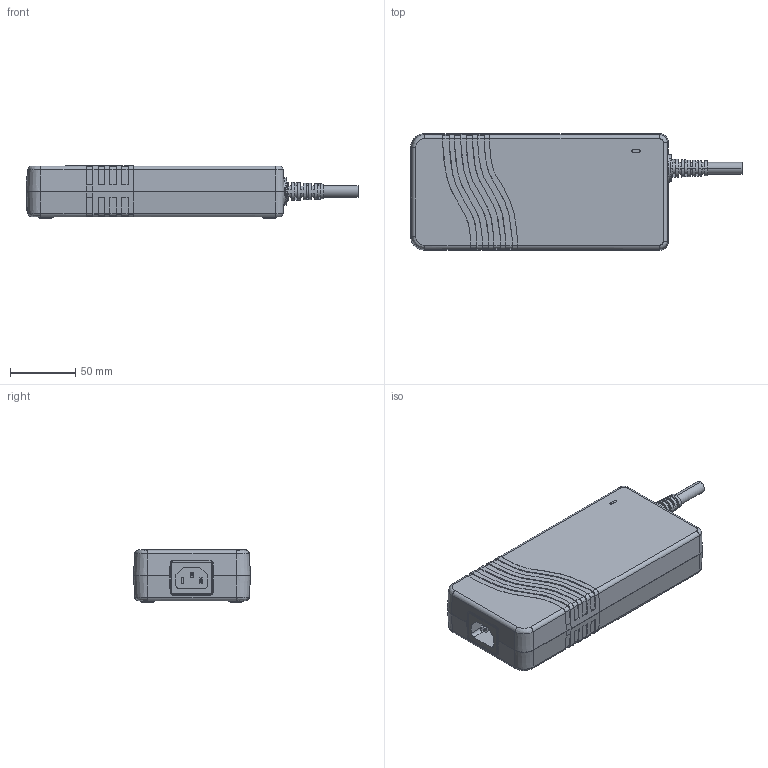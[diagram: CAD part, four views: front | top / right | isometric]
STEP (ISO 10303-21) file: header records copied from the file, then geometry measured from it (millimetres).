
FILE_DESCRIPTION (( 'STEP AP214' ), '1' );
FILE_NAME ('VES300.STEP', '2023-12-06T13:10:33', ( '' ), ( '' ), 'SwSTEP 2.0', 'SolidWorks 2022', '' );
FILE_SCHEMA (( 'AUTOMOTIVE_DESIGN' ));
Length unit declared in the file: inch
Products named in the file (6): IEC Inlet; VES300; LED; Cover; Bottom; Output cable
Assembly tree (5 placements, depth 2):
  VES300
    Cover
    Bottom
    LED
    Output cable
    IEC Inlet
Bounding box: 255.18 x 89.91 x 40.2 mm (x, y, z)
Volume: 132484.3 mm3; surface area: 127689.2 mm2
Topology: 10 solids, 12 shells, 1090 faces, 2923 edges, 1907 vertices
Faces by surface type: plane 588, cylinder 198, cone 159, bspline 141, torus 4
Entity records: 54360 total; most frequent: CARTESIAN_POINT 28964, ORIENTED_EDGE 5846, DIRECTION 4239, EDGE_CURVE 2923, VERTEX_POINT 1907, LINE 1607, VECTOR 1607, AXIS2_PLACEMENT_3D 1316
